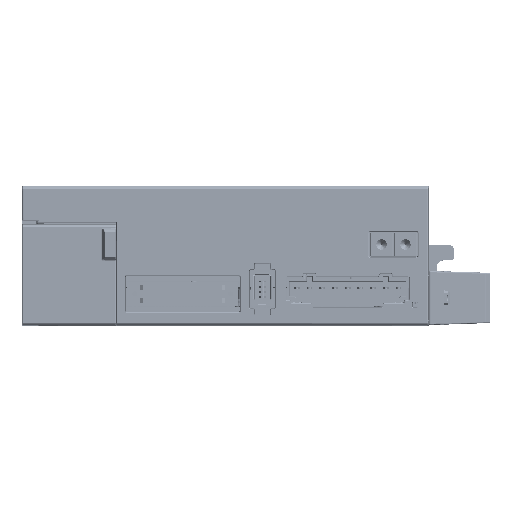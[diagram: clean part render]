
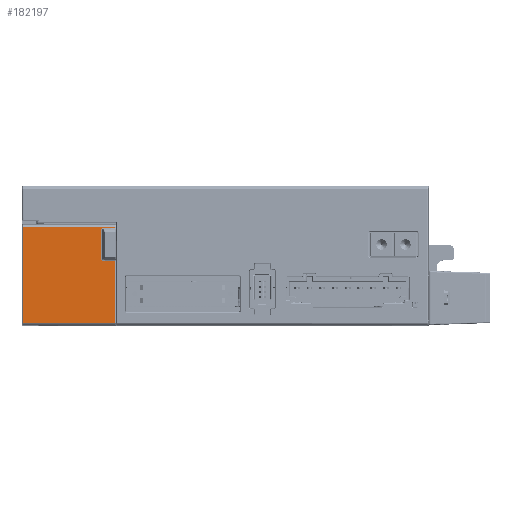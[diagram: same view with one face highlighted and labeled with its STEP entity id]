
A CAD part, front view. The second image highlights one B-rep face of the part: STEP entity #182197.
In plain terms, the highlighted planar face has unit normal (0, -1, 0).
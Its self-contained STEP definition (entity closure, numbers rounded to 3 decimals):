
#176499=DIRECTION('',(0.,0.,1.));
#176500=VECTOR('',#176499,37.586);
#176501=CARTESIAN_POINT('',(-79.461,-73.,-4.993));
#176502=LINE('',#176501,#176500);
#176641=DIRECTION('',(1.,0.,0.));
#176642=VECTOR('',#176641,36.104);
#176643=CARTESIAN_POINT('',(-79.461,-73.,32.593));
#176644=LINE('',#176643,#176642);
#176653=DIRECTION('',(-1.,0.,0.));
#176654=VECTOR('',#176653,36.104);
#176655=CARTESIAN_POINT('',(-43.357,-73.,-4.993));
#176656=LINE('',#176655,#176654);
#179061=DIRECTION('',(0.,0.,-1.));
#179062=VECTOR('',#179061,0.451);
#179063=CARTESIAN_POINT('',(-43.357,-73.,32.593));
#179064=LINE('',#179063,#179062);
#179213=DIRECTION('',(0.,0.,-1.));
#179214=VECTOR('',#179213,24.451);
#179215=CARTESIAN_POINT('',(-43.357,-73.,19.458));
#179216=LINE('',#179215,#179214);
#179250=DIRECTION('',(1.,0.,0.));
#179251=VECTOR('',#179250,4.937);
#179252=CARTESIAN_POINT('',(-48.294,-73.,19.458));
#179253=LINE('',#179252,#179251);
#179258=CARTESIAN_POINT('',(-48.817,-73.,19.95));
#179259=CARTESIAN_POINT('',(-48.817,-73.,19.898));
#179260=CARTESIAN_POINT('',(-48.801,-73.,19.799));
#179261=CARTESIAN_POINT('',(-48.728,-73.,19.66));
#179262=CARTESIAN_POINT('',(-48.614,-73.,19.55));
#179263=CARTESIAN_POINT('',(-48.466,-73.,19.476));
#179264=CARTESIAN_POINT('',(-48.354,-73.,19.459));
#179265=CARTESIAN_POINT('',(-48.294,-73.,19.458));
#179281=DIRECTION('',(0.,0.,-1.));
#179282=VECTOR('',#179281,11.701);
#179283=CARTESIAN_POINT('',(-48.817,-73.,31.65));
#179284=LINE('',#179283,#179282);
#179290=CARTESIAN_POINT('',(-48.294,-73.,32.142));
#179291=CARTESIAN_POINT('',(-48.354,-73.,32.141));
#179292=CARTESIAN_POINT('',(-48.464,-73.,32.125));
#179293=CARTESIAN_POINT('',(-48.614,-73.,32.051));
#179294=CARTESIAN_POINT('',(-48.729,-73.,31.939));
#179295=CARTESIAN_POINT('',(-48.801,-73.,31.799));
#179296=CARTESIAN_POINT('',(-48.817,-73.,31.701));
#179297=CARTESIAN_POINT('',(-48.817,-73.,31.65));
#179508=DIRECTION('',(-1.,0.,0.));
#179509=VECTOR('',#179508,4.937);
#179510=CARTESIAN_POINT('',(-43.357,-73.,32.142));
#179511=LINE('',#179510,#179509);
#180419=CARTESIAN_POINT('',(-79.461,-73.,32.593));
#180420=CARTESIAN_POINT('',(-43.357,-73.,32.593));
#180421=VERTEX_POINT('',#180419);
#180422=VERTEX_POINT('',#180420);
#180423=CARTESIAN_POINT('',(-43.357,-73.,-4.993));
#180424=CARTESIAN_POINT('',(-79.461,-73.,-4.993));
#180425=VERTEX_POINT('',#180423);
#180426=VERTEX_POINT('',#180424);
#180427=CARTESIAN_POINT('',(-43.357,-73.,19.458));
#180428=VERTEX_POINT('',#180427);
#180429=CARTESIAN_POINT('',(-48.294,-73.,19.458));
#180430=VERTEX_POINT('',#180429);
#180431=VERTEX_POINT('',#179258);
#180432=CARTESIAN_POINT('',(-48.817,-73.,31.65));
#180433=VERTEX_POINT('',#180432);
#180434=VERTEX_POINT('',#179290);
#180435=CARTESIAN_POINT('',(-43.357,-73.,32.142));
#180436=VERTEX_POINT('',#180435);
#182172=CARTESIAN_POINT('',(-61.525,-73.,13.8));
#182173=DIRECTION('',(0.,1.,0.));
#182174=DIRECTION('',(0.,0.,-1.));
#182175=AXIS2_PLACEMENT_3D('',#182172,#182173,#182174);
#182176=PLANE('',#182175);
#182178=ORIENTED_EDGE('',*,*,#182177,.T.);
#182179=ORIENTED_EDGE('',*,*,#181858,.T.);
#182180=ORIENTED_EDGE('',*,*,#182156,.T.);
#182182=ORIENTED_EDGE('',*,*,#182181,.T.);
#182184=ORIENTED_EDGE('',*,*,#182183,.T.);
#182186=ORIENTED_EDGE('',*,*,#182185,.T.);
#182188=ORIENTED_EDGE('',*,*,#182187,.T.);
#182190=ORIENTED_EDGE('',*,*,#182189,.T.);
#182192=ORIENTED_EDGE('',*,*,#182191,.T.);
#182194=ORIENTED_EDGE('',*,*,#182193,.T.);
#182195=EDGE_LOOP('',(#182178,#182179,#182180,#182182,#182184,#182186,#182188,
#182190,#182192,#182194));
#182196=FACE_OUTER_BOUND('',#182195,.F.);
#182197=ADVANCED_FACE('',(#182196),#182176,.F.);
#179266=B_SPLINE_CURVE_WITH_KNOTS('',3,(#179258,#179259,#179260,#179261,#179262,
#179263,#179264,#179265),.UNSPECIFIED.,.F.,.F.,(4,1,1,1,1,4),(0.,0.2,0.4,
0.6,0.8,1.),.UNSPECIFIED.);
#179298=B_SPLINE_CURVE_WITH_KNOTS('',3,(#179290,#179291,#179292,#179293,#179294,
#179295,#179296,#179297),.UNSPECIFIED.,.F.,.F.,(4,1,1,1,1,4),(0.,0.2,0.4,
0.6,0.8,1.),.UNSPECIFIED.);
#181858=EDGE_CURVE('',#180426,#180421,#176502,.T.);
#182156=EDGE_CURVE('',#180421,#180422,#176644,.T.);
#182177=EDGE_CURVE('',#180425,#180426,#176656,.T.);
#182181=EDGE_CURVE('',#180422,#180436,#179064,.T.);
#182183=EDGE_CURVE('',#180436,#180434,#179511,.T.);
#182185=EDGE_CURVE('',#180434,#180433,#179298,.T.);
#182187=EDGE_CURVE('',#180433,#180431,#179284,.T.);
#182189=EDGE_CURVE('',#180431,#180430,#179266,.T.);
#182191=EDGE_CURVE('',#180430,#180428,#179253,.T.);
#182193=EDGE_CURVE('',#180428,#180425,#179216,.T.);
